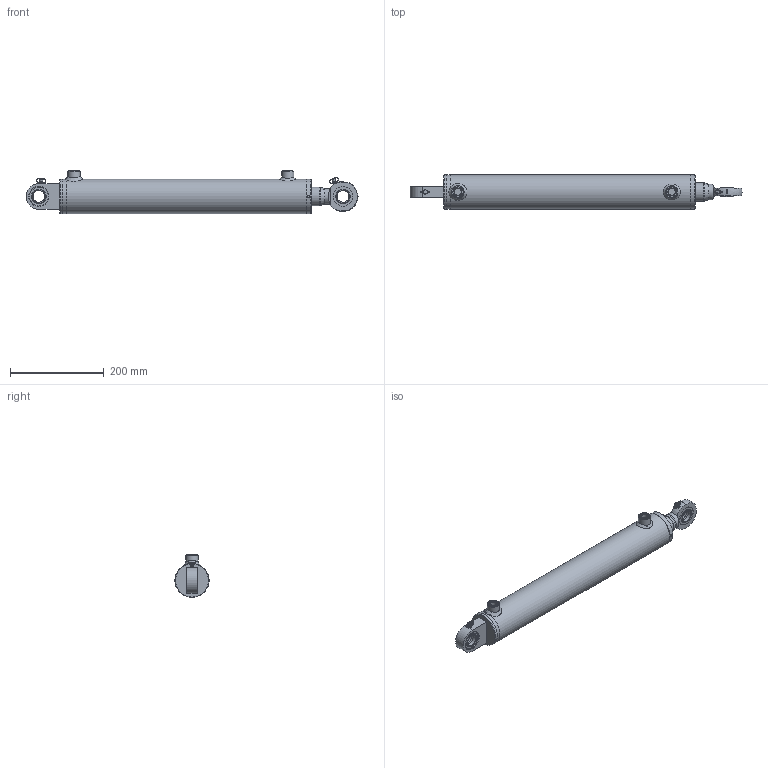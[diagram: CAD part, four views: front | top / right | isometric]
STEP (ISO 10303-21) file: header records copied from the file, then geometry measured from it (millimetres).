
FILE_DESCRIPTION( ( 'Unknown' ), '1' );
FILE_NAME( 'E:/LIBRERIA_3d/CILINDRI/HMB/HMB063400400.stp', 'Unknown', ( 'Unknown' ), ( 'Unknown' ), 'PSStep 17.0.49', 'Unknown', ' ' );
FILE_SCHEMA( ( 'AUTOMOTIVE_DESIGN { 1 0 10303 214 1 1 1 1 }' ) );
Length unit declared in the file: millimetre
Products named in the file (35): CT00063024; CSTSF025C0; tsc25c_CORPO; AN00006001; CSTSF025N0; An00006001; CSTS025N_CORPO; CSAI002042; CSAI002042-oa0; STL0630730400-oa6; Saldatura d'angolo 1-oa4; MAT_PRIMA_TUBO_FT07306300-oa5; CBSC220600; CG07306340; CSTS025N00; CGE0250000; APGR013000; HM0063400400; Saldatura con preparazione 1-oa2; Saldatura d'angolo 1-oa3; CBS0600000; CF00063073; CDA0002420; APG0600000; SBL0400630400; CSTS025C00; cge0250000; Assem1; Saldatura d'angolo 2-oa1
Assembly tree (32 placements, depth 4):
  Saldatura d'angolo 1-oa4
  Saldatura d'angolo 1-oa4
  Saldatura d'angolo 1-oa3
  Saldatura d'angolo 1-oa3
  Assem1
    APGR013000  x2
    CSTS025N00
      CGE0250000
      APGR013000
      CSTSF025N0
        An00006001
        CSTS025N_CORPO
        CSAI002042
        CSAI002042-oa0
    CSTS025C00
      cge0250000
      APGR013000
      CSTSF025C0
        tsc25c_CORPO
        AN00006001
    HM0063400400
      Saldatura con preparazione 1-oa2
      Saldatura con preparazione 1-oa2
      CBS0600000
      CF00063073
      CDA0002420
      APG0600000  x2
      SBL0400630400
      CG07306340
        CG07306340
      CT00063024
        CT00063024
      STL0630730400-oa6
        MAT_PRIMA_TUBO_FT07306300-oa5
        CBSC220600
Bounding box: 709.5 x 73 x 92 mm (x, y, z)
Volume: 1571220.5 mm3; surface area: 420565.7 mm2
Topology: 30 solids, 30 shells, 373 faces, 766 edges, 486 vertices
Faces by surface type: plane 138, cylinder 101, torus 46, cone 45, bspline 36, sphere 7
Full cylindrical faces by diameter (mm): 2 x4, 4 x1, 4.25 x1, 5 x12, 6 x4, 7 x2, 8 x4, 9 x4, 14.95 x2, 16 x2, 16.6 x2, 22 x2, 23.4 x1, 24 x5, 25 x4, 26 x2, 28.5 x1, 33.5 x3, 36 x1, 40 x6, 42 x9, 43 x1, 47 x1, 48 x1, 48.6 x1, 58 x1, 58.39 x2, 61.63 x2, 62.9 x1, 63 x1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
Entity records: 13624 total; most frequent: CARTESIAN_POINT 5303, DIRECTION 1284, ORIENTED_EDGE 804, AXIS2_PLACEMENT_3D 599, EDGE_LOOP 574, FACE_OUTER_BOUND 451, EDGE_CURVE 402, VERTEX_POINT 354
